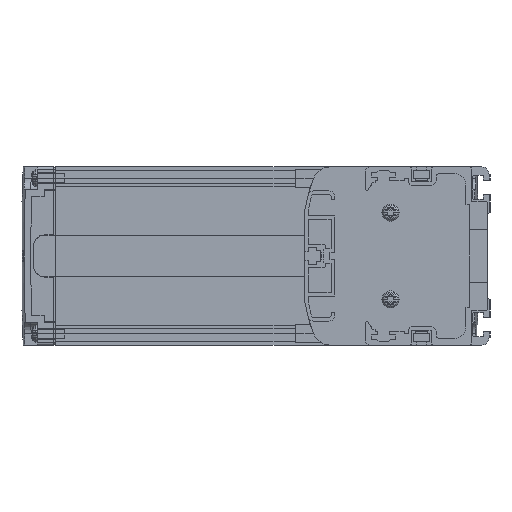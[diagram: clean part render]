
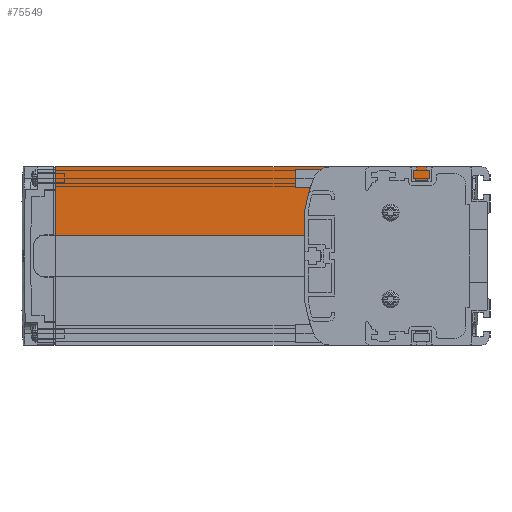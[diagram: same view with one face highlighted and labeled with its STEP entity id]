
A CAD part, left-side view. The second image highlights one B-rep face of the part: STEP entity #75549.
In plain terms, the highlighted planar face has unit normal (-1, 0, 0).
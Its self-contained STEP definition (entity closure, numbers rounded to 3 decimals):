
#73490=DIRECTION('',(0.,-1.,0.));
#73491=VECTOR('',#73490,51.);
#73492=CARTESIAN_POINT('',(3.,71.,27.));
#73493=LINE('',#73492,#73491);
#74139=DIRECTION('',(0.,-1.,0.));
#74140=VECTOR('',#74139,170.);
#74141=CARTESIAN_POINT('',(3.,190.,39.));
#74142=LINE('',#74141,#74140);
#74157=DIRECTION('',(0.,0.,-1.));
#74158=VECTOR('',#74157,29.9);
#74159=CARTESIAN_POINT('',(3.,190.,39.));
#74160=LINE('',#74159,#74158);
#74161=DIRECTION('',(0.,0.,1.));
#74162=VECTOR('',#74161,12.);
#74163=CARTESIAN_POINT('',(3.,20.,27.));
#74164=LINE('',#74163,#74162);
#74165=DIRECTION('',(0.,0.,1.));
#74166=VECTOR('',#74165,17.9);
#74167=CARTESIAN_POINT('',(3.,71.,9.1));
#74168=LINE('',#74167,#74166);
#74275=DIRECTION('',(0.,-1.,0.));
#74276=VECTOR('',#74275,119.);
#74277=CARTESIAN_POINT('',(3.,190.,9.1));
#74278=LINE('',#74277,#74276);
#74362=CARTESIAN_POINT('',(3.,20.,27.));
#74364=VERTEX_POINT('',#74362);
#74456=CARTESIAN_POINT('',(3.,20.,39.));
#74457=VERTEX_POINT('',#74456);
#74530=CARTESIAN_POINT('',(3.,190.,39.));
#74531=VERTEX_POINT('',#74530);
#74532=CARTESIAN_POINT('',(3.,190.,9.1));
#74533=VERTEX_POINT('',#74532);
#74594=CARTESIAN_POINT('',(3.,71.,27.));
#74595=VERTEX_POINT('',#74594);
#74596=CARTESIAN_POINT('',(3.,71.,9.1));
#74597=VERTEX_POINT('',#74596);
#75534=CARTESIAN_POINT('',(3.,105.,24.05));
#75535=DIRECTION('',(1.,0.,0.));
#75536=DIRECTION('',(0.,0.,1.));
#75537=AXIS2_PLACEMENT_3D('',#75534,#75535,#75536);
#75538=PLANE('',#75537);
#75539=ORIENTED_EDGE('',*,*,#74780,.F.);
#75541=ORIENTED_EDGE('',*,*,#75540,.F.);
#75543=ORIENTED_EDGE('',*,*,#75542,.F.);
#75544=ORIENTED_EDGE('',*,*,#75108,.F.);
#75545=ORIENTED_EDGE('',*,*,#75522,.T.);
#75546=ORIENTED_EDGE('',*,*,#74649,.F.);
#75547=EDGE_LOOP('',(#75539,#75541,#75543,#75544,#75545,#75546));
#75548=FACE_OUTER_BOUND('',#75547,.F.);
#75549=ADVANCED_FACE('',(#75548),#75538,.F.);
#74649=EDGE_CURVE('',#74364,#74457,#74164,.T.);
#74780=EDGE_CURVE('',#74595,#74364,#73493,.T.);
#75108=EDGE_CURVE('',#74531,#74533,#74160,.T.);
#75522=EDGE_CURVE('',#74531,#74457,#74142,.T.);
#75540=EDGE_CURVE('',#74597,#74595,#74168,.T.);
#75542=EDGE_CURVE('',#74533,#74597,#74278,.T.);
